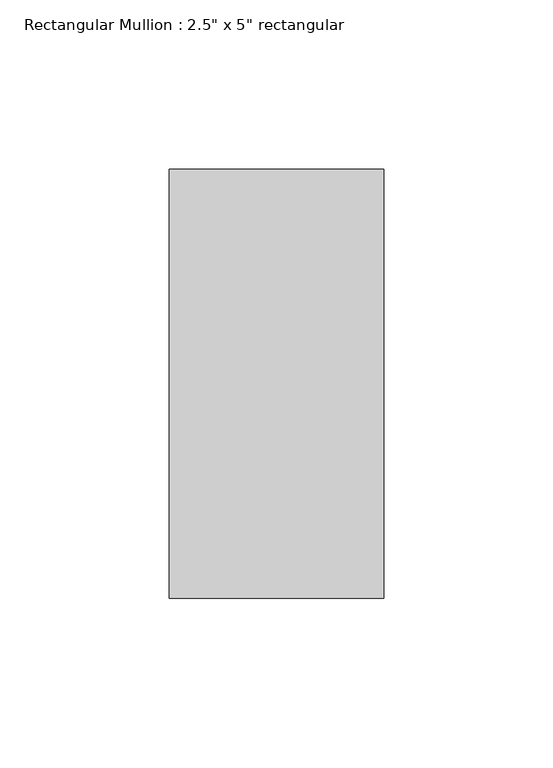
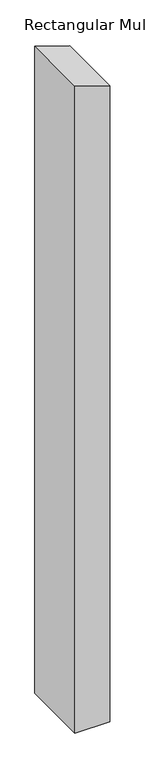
"""IFC4 building model written with IfcOpenShell, lengths in millimetres: member geometry."""

from ifc_helpers import new_model, si_unit, frame, origin, place, context, project, spatial, polyline, outline, extrude, source, transform, mapped, element, save


def member_7bb0cd3e(model_context):
    return source(origin(), model_context, "Body", "SweptSolid", [
        extrude(outline(polyline([(0.0, 0.0), (21.1666667, -63.5), (-1231.6017394, -63.5), (-1231.6017394, 0.0), (0.0, 0.0)])), frame((0.0, -63.5, 0.0), z_axis=(0.0, 1.0, 0.0), x_axis=(0.0, 0.0, 1.0)), (0.0, 0.0, 1.0), 127.0),
    ])


if __name__ == "__main__":
    model = new_model("IFC4")
    model_context = context("Model", 3, world=origin())
    ifc_project = project(units=[si_unit("LENGTHUNIT", "METRE", prefix="MILLI")], contexts=[model_context])
    site = spatial("IfcSite", under=ifc_project)
    building = spatial("IfcBuilding", under=site)
    placement = place(None, origin())
    member_shape = member_7bb0cd3e(model_context)
    element("IfcMember", 1, ObjectType="Rectangular Mullion : 2.5\" x 5\" rectangular", at=placement, inside=building, context=model_context, shape_type="MappedRepresentation", body=[
        mapped(member_shape, transform((0.0, 0.0, 0.0), x_axis=(1.0, 0.0, 0.0), y_axis=(0.0, 1.0, 0.0), z_axis=(0.0, 0.0, 1.0))),
    ])
    save(model, "model.ifc")
